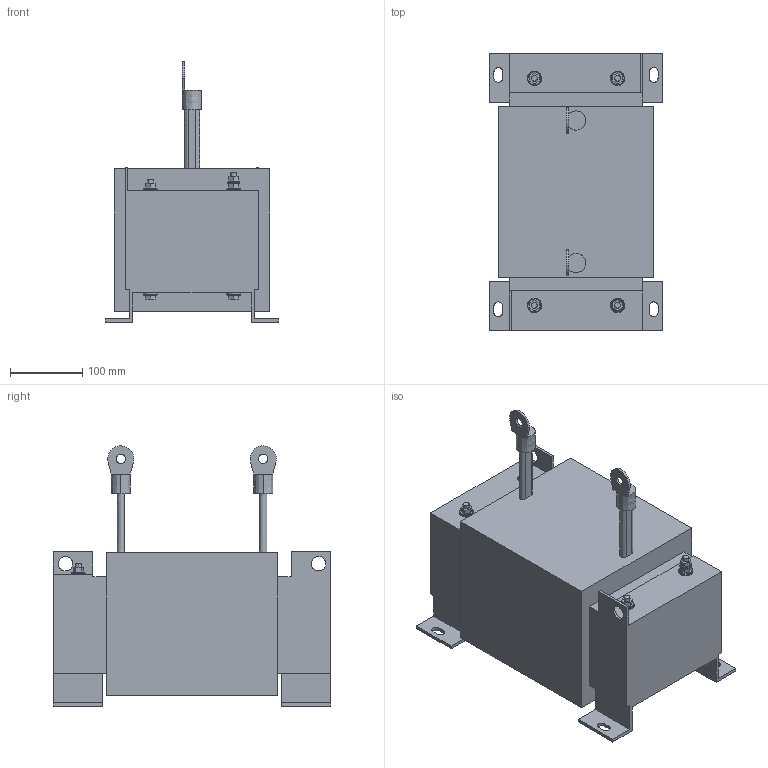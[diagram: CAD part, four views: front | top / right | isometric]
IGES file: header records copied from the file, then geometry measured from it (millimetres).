
Start section:  PTC IGES file: 3d-hel-n355.igs
Global section: file name: 3d-hel-n355.igs; native system: Pro/ENGINEER by Parametric Technology Corporation; preprocessor: 2011490; author: ZP59378; organization: Unknown; date: 20130719.140210; units: millimetre
Bounding box: 240 x 384 x 360 mm (x, y, z)
Volume: 14035043.3 mm3; surface area: 454800.6 mm2
Topology: 1 solids, 2 shells, 240 faces, 586 edges, 388 vertices
Faces by surface type: bspline 240
